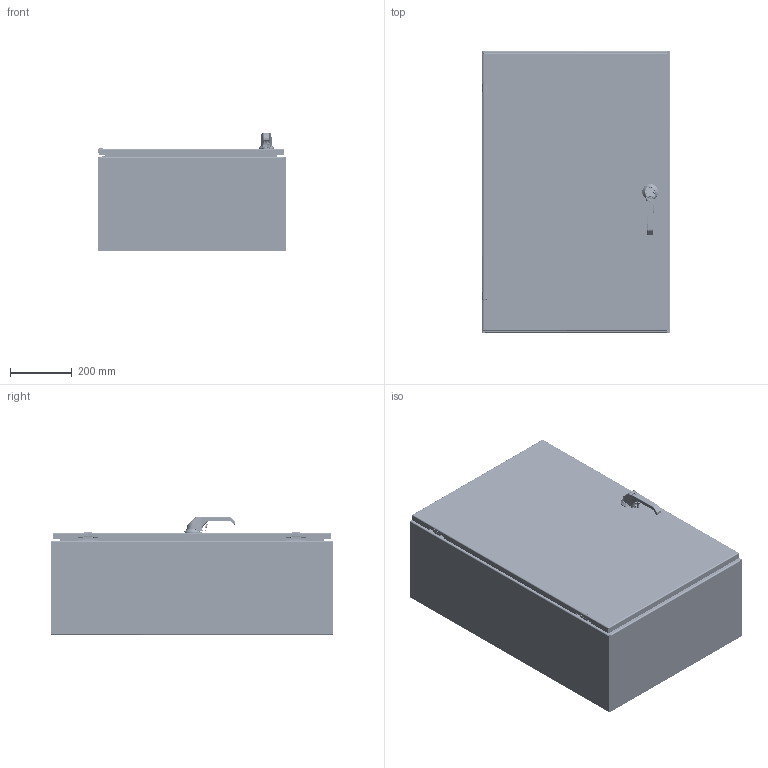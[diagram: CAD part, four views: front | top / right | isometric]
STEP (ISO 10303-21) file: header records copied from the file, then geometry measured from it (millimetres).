
FILE_DESCRIPTION((''),'2;1');
FILE_NAME('MODEL-300_ASM','2026-04-01T14:42:57',('richards'),('SAGINAW CONTROL & ENGINEERING'),'CREO PARAMETRIC BY PTC INC, 2021284','CREO PARAMETRIC BY PTC INC, 2021284','');
FILE_SCHEMA(('AUTOMOTIVE_DESIGN { 1 0 10303 214 1 1 1 1 }'));
Length unit declared in the file: inch
Products named in the file (57): MODEL-300-BDY; MODEL-300-TP; MODEL-300-BTM; MODEL-300-DR; 100837; 100882; 111267; 125597; MODEL-300-ROD-UPR; 128146; 128145; 128144; 102482; MODEL-300-ROD-UPR_ASM; 128143; 112504; MODEL-300-ROD-LWR; MODEL-300-ROD-LWR_ASM; 100955_SCREW_MTG; 100955_PADLOCK_CATCH; 100955_SCREW_LARGE; 100955_INSERT_SHAFT; 100955_INSERT_PKH; 100955_GASKET; 100955_O-RING; 100955_BASE; 100955_SPRING; 100955_HANDLE; 100955_CAM_SHAFT; 100955_HANDLE_ASM; 100955_CAM_ADAPTER; 100955_EARTH_NUT; 100955_FLANGE_NUT; 100955_CAM_NUT; 100955_KEY_INSERT; 100955_SPRING_CAM; 100955_TORSION_SPRING; 100955_SCREW_INSERT; 100955_ASM; 128142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
Assembly tree (95 placements, depth 5):
  MODEL-300_ASM
    MODEL-300-BDY
    MODEL-300-TP
    MODEL-300-BTM
    MODEL-300-DOOR-ASSY_ASM
      MODEL-300-DR
      100837  x5
      100882  x4
      111267
      125597
      MODEL-300-ROD-UPR_ASM
        MODEL-300-ROD-UPR
        128146
        128145
        128144
        102482  x2
      128143  x2
      112504  x2
      MODEL-300-ROD-LWR_ASM
        MODEL-300-ROD-LWR
        128146
        128145
        128144
        102482  x2
      100955_ASM
        100955_SCREW_MTG
        100955_PADLOCK_CATCH
        100955_SCREW_LARGE  x2
        100955_INSERT_SHAFT
        100955_INSERT_PKH
        100955_GASKET
        100955_O-RING
        100955_BASE
        100955_SPRING
        100955_HANDLE_ASM
          100955_HANDLE
          100955_CAM_SHAFT
        100955_CAM_ADAPTER
        100955_EARTH_NUT
        100955_FLANGE_NUT
        100955_CAM_NUT
        100955_KEY_INSERT
        100955_SPRING_CAM
        100955_TORSION_SPRING
        100955_SCREW_INSERT
      128142_ASM
        128142
        100030  x2
      MODEL-300-POUR-GSKT
      126392_ASM  x2
        126392
      126395  x2
      102483  x6
      101389  x2
      101226  x2
      102140  x2
      132757  x2
    100837
    101653  x6
    SUBPANEL-SUBASSEMBLY_ASM
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Bounding box: 609.6 x 914.4 x 383.3 mm (x, y, z)
Volume: 6501966 mm3; surface area: 5918165.5 mm2
Topology: 93 solids, 93 shells, 8622 faces, 21574 edges, 13113 vertices
Faces by surface type: plane 3011, cylinder 2223, bspline 1642, torus 803, cone 615, sphere 298, extrusion 30
Entity records: 334906 total; most frequent: CARTESIAN_POINT 139437, ORIENTED_EDGE 30770, DIRECTION 27456, PRESENTATION_STYLE_ASSIGNMENT 15446, STYLED_ITEM 15439, CURVE_STYLE 15385, EDGE_CURVE 15385, AXIS2_PLACEMENT_3D 10181
